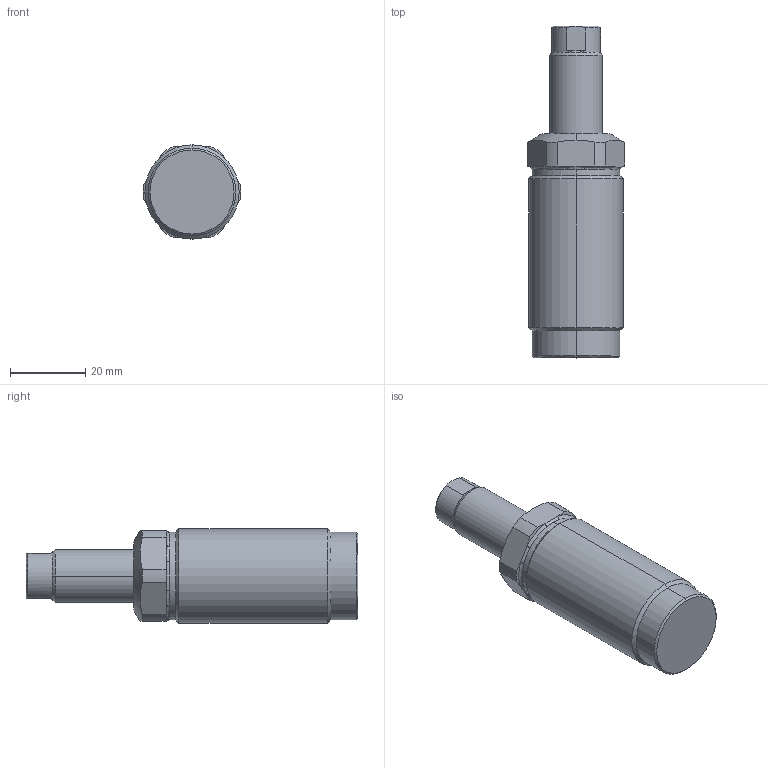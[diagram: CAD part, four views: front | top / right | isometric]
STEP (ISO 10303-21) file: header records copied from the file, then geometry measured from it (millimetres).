
FILE_DESCRIPTION((' '),'2;1');
FILE_NAME( 'TGM04-20.x_t.stp', '2024-08-27T13:43:50', (' '), ('--- Datakit www.datakit.com---'), ' Datakit CrossCadWare V2024.1 Dec 21 2023', 'Mastercam 2025', ' ');
FILE_SCHEMA(('AUTOMOTIVE_DESIGN { 1 0 10303 214 1 1 1 1 }'));
Length unit declared in the file: millimetre
Products named in the file (1): TGM04-20
Bounding box: 25.98 x 88 x 25 mm (x, y, z)
Volume: 29022.1 mm3; surface area: 8133.4 mm2
Topology: 2 solids, 2 shells, 72 faces, 169 edges, 102 vertices
Faces by surface type: cone 22, cylinder 22, plane 16, bspline 6, torus 6
Entity records: 3365 total; most frequent: CARTESIAN_POINT 1722, DIRECTION 346, ORIENTED_EDGE 334, EDGE_CURVE 167, AXIS2_PLACEMENT_3D 150, VERTEX_POINT 102, CIRCLE 77, EDGE_LOOP 75
